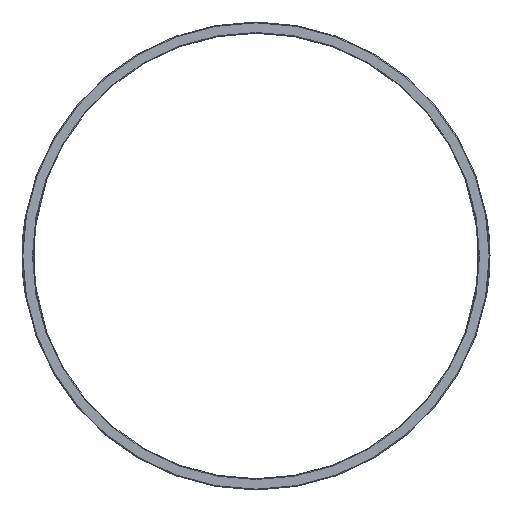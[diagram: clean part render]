
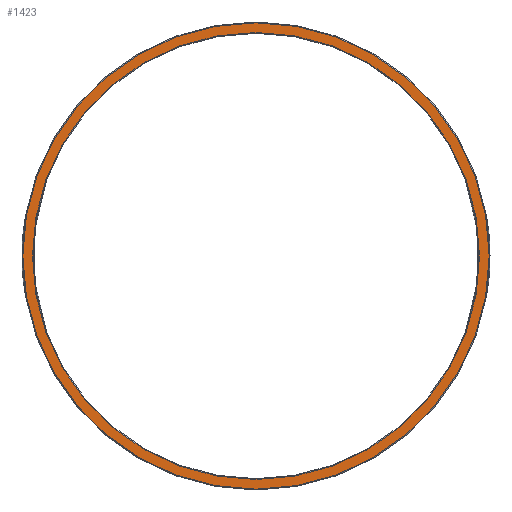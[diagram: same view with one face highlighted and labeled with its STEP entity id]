
A CAD part, left-side view. The second image highlights one B-rep face of the part: STEP entity #1423.
In plain terms, the highlighted planar face has unit normal (-1, 0, 0).
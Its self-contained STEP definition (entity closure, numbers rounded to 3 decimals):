
#1392=CARTESIAN_POINT('',(-35.25,27.1,0.));
#1393=VERTEX_POINT('',#1392);
#1394=CARTESIAN_POINT('',(-35.25,0.0,0.0));
#1395=DIRECTION('',(-1.0,0.0,0.0));
#1396=DIRECTION('',(0.0,-1.0,0.0));
#1397=AXIS2_PLACEMENT_3D('',#1394,#1395,#1396);
#1398=CIRCLE('',#1397,27.1);
#1399=EDGE_CURVE('',#1393,#1393,#1398,.T.);
#1404=CARTESIAN_POINT('',(-35.25,27.685,0.0));
#1405=DIRECTION('',(-1.0,0.0,0.0));
#1406=DIRECTION('',(0.0,0.0,1.0));
#1407=AXIS2_PLACEMENT_3D('',#1404,#1405,#1406);
#1408=PLANE('',#1407);
#1409=CARTESIAN_POINT('',(-35.25,28.27,0.));
#1410=VERTEX_POINT('',#1409);
#1411=CARTESIAN_POINT('',(-35.25,0.0,0.0));
#1412=DIRECTION('',(1.0,0.0,0.0));
#1413=DIRECTION('',(0.0,-1.0,0.0));
#1414=AXIS2_PLACEMENT_3D('',#1411,#1412,#1413);
#1415=CIRCLE('',#1414,28.27);
#1416=EDGE_CURVE('',#1410,#1410,#1415,.T.);
#1417=ORIENTED_EDGE('',*,*,#1416,.F.);
#1418=EDGE_LOOP('',(#1417));
#1419=FACE_OUTER_BOUND('',#1418,.T.);
#1420=ORIENTED_EDGE('',*,*,#1399,.F.);
#1421=EDGE_LOOP('',(#1420));
#1422=FACE_BOUND('',#1421,.T.);
#1423=ADVANCED_FACE('',(#1419,#1422),#1408,.T.);
